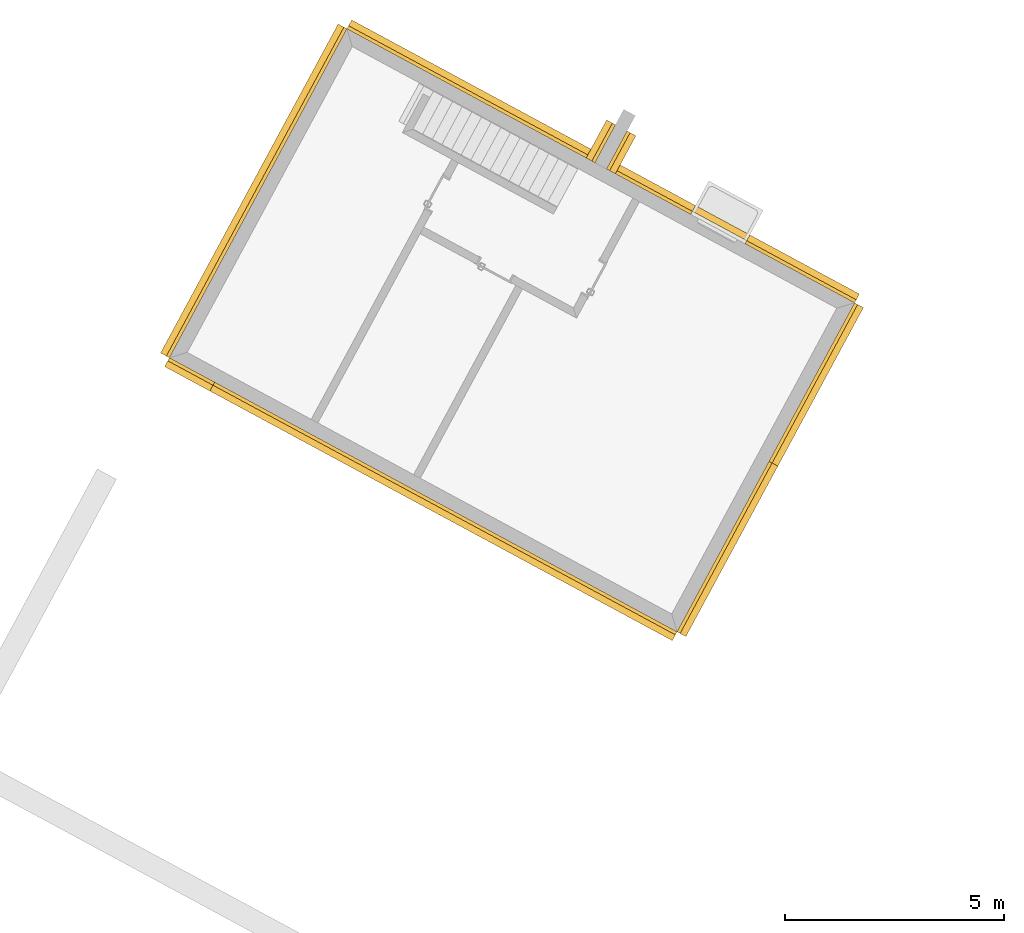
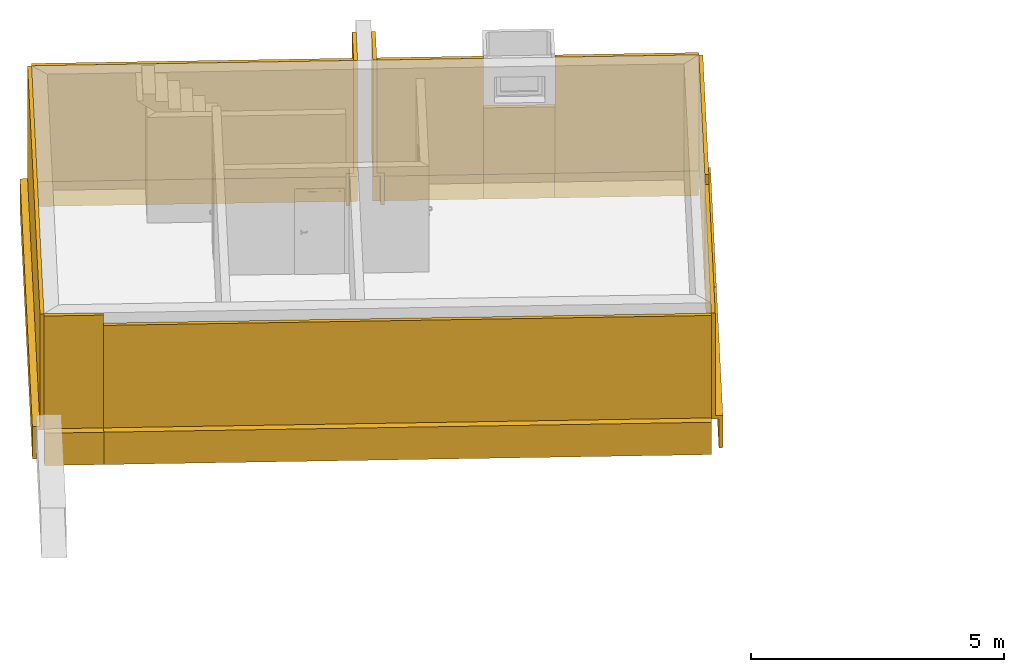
# One storey, part 7 of 8: 11 coverings.
"""IFC2X3 building model written with IfcOpenShell, lengths in metres."""

from ifc_helpers import new_model, entity, si_unit, converted_unit, derived_unit, money_unit, direction, frame, origin_with_axes, place, context, subcontext, project, spatial, polyline, outline, composite_profile, extrude, material, material_list, type_object, element, save


model = new_model("IFC2X3")

# Units and contexts
model_context = context("Model", 3, precision=1e-05, world=origin_with_axes(), true_north=direction((0.0, 1.0)))
body_context = subcontext(model_context, "Body", "Model", "MODEL_VIEW")
ifc_project = project(units=[si_unit("LENGTHUNIT", "METRE"), si_unit("AREAUNIT", "SQUARE_METRE"), si_unit("VOLUMEUNIT", "CUBIC_METRE"), converted_unit("PLANEANGLEUNIT", "DEGREE", entity("IfcPlaneAngleMeasure", 0.0174532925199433), si_unit("PLANEANGLEUNIT", "RADIAN"), dimensions=[0, 0, 0, 0, 0, 0, 0]), money_unit("EUR"), converted_unit("TIMEUNIT", "Year", entity("IfcTimeMeasure", 31556926.0), si_unit("TIMEUNIT", "SECOND"), dimensions=[0, 0, 1, 0, 0, 0, 0]), si_unit("MASSUNIT", "GRAM", prefix="KILO"), si_unit("THERMODYNAMICTEMPERATUREUNIT", "DEGREE_CELSIUS"), si_unit("LUMINOUSINTENSITYUNIT", "LUMEN"), si_unit("ENERGYUNIT", "JOULE", prefix="MEGA"), derived_unit("THERMALCONDUCTANCEUNIT", [(si_unit("POWERUNIT", "WATT"), 1), (si_unit("LENGTHUNIT", "METRE"), -1), (si_unit("THERMODYNAMICTEMPERATUREUNIT", "KELVIN"), -1)]), derived_unit("SPECIFICHEATCAPACITYUNIT", [(si_unit("ENERGYUNIT", "JOULE"), 1), (si_unit("MASSUNIT", "GRAM", prefix="KILO"), -1), (si_unit("THERMODYNAMICTEMPERATUREUNIT", "KELVIN"), -1)]), derived_unit("MASSDENSITYUNIT", [(si_unit("MASSUNIT", "GRAM", prefix="KILO"), 1), (si_unit("VOLUMEUNIT", "CUBIC_METRE"), -1)])], contexts=[model_context])

# Site, building, storey
site_placement = place(None, frame((-3.949935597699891, 1.740105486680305, 0.0), z_axis=(0.0, 0.0, 1.0), x_axis=(0.8799804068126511, -0.475009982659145, 0.0)))
site = spatial("IfcSite", under=ifc_project, at=site_placement, Name="Gelände", CompositionType="ELEMENT")
building_placement = place(site_placement, origin_with_axes())
building = spatial("IfcBuilding", under=site, at=building_placement, Name="Gebäude", CompositionType="ELEMENT")
storey_placement = place(building_placement, frame((0.0, 0.0, -2.98), z_axis=(0.0, 0.0, 1.0), x_axis=(1.0, 0.0, 0.0)))
storey = spatial("IfcBuildingStorey", under=building, at=storey_placement, Name="Kellergeschoss", CompositionType="ELEMENT", Elevation=-2.98)

# Coverings
ifc_material = material(Name="_SIWH - Dämmung, Perimeterdämmung")
ifc_material_list = material_list([ifc_material, ifc_material, ifc_material])
covering_type_1 = type_object("IfcCoveringType", Name="_SIWH - Außendämmung Wand KG 230 x 3500", PredefinedType="INSULATION")
covering_1_placement = place(storey_placement, frame((17.36747827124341, 19.2003203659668, 2.98), z_axis=(0.0, 0.0, 1.0), x_axis=(-0.9999999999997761, -6.693305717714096e-07, 0.0)))
element("IfcCovering", 1, at=covering_1_placement, inside=storey, type_object=covering_type_1, material=ifc_material_list, Name="Unterzug-015", PredefinedType="INSULATION", context=body_context, shape_type="SweptSolid", body=[
    extrude(composite_profile([outline(polyline([(-0.1500000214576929, -2.980000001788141), (-0.2300000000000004, -2.979999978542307), (-0.2300000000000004, -3.68), (-0.1500000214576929, -3.68), (-0.1500000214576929, -2.980000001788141)])), outline(polyline([(-0.08000001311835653, -0.1800000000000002), (-0.08000001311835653, -2.90000003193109), (1.604537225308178e-08, -2.8999999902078), (1.604537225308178e-08, -0.1800000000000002), (-0.08000001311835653, -0.1800000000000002)])), outline(polyline([(9.300086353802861e-09, -2.979999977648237), (9.300086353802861e-09, -2.9), (-0.08000001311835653, -2.90000003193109), (-0.2300000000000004, -2.899999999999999), (-0.2300000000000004, -2.979999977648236), (-0.1500000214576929, -2.980000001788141), (9.300086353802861e-09, -2.979999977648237)]))]), frame((0.0, 4.117274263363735, 0.0), z_axis=(0.0, -1.0, 0.0), x_axis=(1.0, 0.0, 0.0)), (0.0, 0.0, 1.0), 4.117274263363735),
])
covering_2_placement = place(storey_placement, frame((4.182481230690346, 19.2003203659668, 2.98), z_axis=(0.0, 0.0, 1.0), x_axis=(0.0, -1.0, 0.0)))
element("IfcCovering", 2, at=covering_2_placement, inside=storey, type_object=covering_type_1, material=ifc_material_list, Name="Unterzug-015", PredefinedType="INSULATION", context=body_context, shape_type="SweptSolid", body=[
    extrude(composite_profile([outline(polyline([(-0.1500000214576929, -2.980000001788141), (-0.2300000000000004, -2.979999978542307), (-0.2300000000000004, -3.68), (-0.1500000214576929, -3.68), (-0.1500000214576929, -2.980000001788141)])), outline(polyline([(-0.08000001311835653, -0.1800000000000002), (-0.08000001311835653, -2.90000003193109), (1.604537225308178e-08, -2.8999999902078), (1.604537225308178e-08, -0.1800000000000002), (-0.08000001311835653, -0.1800000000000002)])), outline(polyline([(9.300086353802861e-09, -2.979999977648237), (9.300086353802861e-09, -2.9), (-0.08000001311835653, -2.90000003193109), (-0.2300000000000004, -2.899999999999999), (-0.2300000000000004, -2.979999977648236), (-0.1500000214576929, -2.980000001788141), (9.300086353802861e-09, -2.979999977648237)]))]), frame((0.0, 6.442524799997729, 0.0), z_axis=(0.0, -1.0, 0.0), x_axis=(1.0, 0.0, 0.0)), (0.0, 0.0, 1.0), 6.442524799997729),
])
covering_3_placement = place(storey_placement, frame((4.182535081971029, 10.65780061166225, 2.98), z_axis=(0.0, 0.0, 1.0), x_axis=(0.9999999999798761, 6.344140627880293e-06, 0.0)))
element("IfcCovering", 3, at=covering_3_placement, inside=storey, type_object=covering_type_1, material=ifc_material_list, Name="Unterzug-017", PredefinedType="INSULATION", context=body_context, shape_type="SweptSolid", body=[
    extrude(composite_profile([outline(polyline([(-0.1500000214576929, -2.980000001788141), (-0.2300000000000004, -2.979999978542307), (-0.2300000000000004, -3.68), (-0.1500000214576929, -3.68), (-0.1500000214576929, -2.980000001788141)])), outline(polyline([(-0.08000001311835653, -0.1800000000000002), (-0.08000001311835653, -2.90000003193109), (1.604537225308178e-08, -2.8999999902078), (1.604537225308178e-08, -0.1800000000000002), (-0.08000001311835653, -0.1800000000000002)])), outline(polyline([(9.300086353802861e-09, -2.979999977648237), (9.300086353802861e-09, -2.9), (-0.08000001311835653, -2.90000003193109), (-0.2300000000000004, -2.899999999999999), (-0.2300000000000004, -2.979999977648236), (-0.1500000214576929, -2.980000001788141), (9.300086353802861e-09, -2.979999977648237)]))]), frame((0.0, 8.542519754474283, 0.0), z_axis=(0.0, -1.0, 0.0), x_axis=(1.0, 0.0, 0.0)), (0.0, 0.0, 1.0), 8.542519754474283),
])
for number, where, z_axis, x_axis, name in (
    (4, (10.62500603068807, 19.2003203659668, 2.98), (0.0, 0.0, 1.0), (1.0, 0.0, 0.0), "Unterzug-015"),
    (5, (10.92500603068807, 20.18528753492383, 2.98), (0.0, 0.0, 1.0), (-1.0, 0.0, 0.0), "Unterzug-017"),
):
    element("IfcCovering", number, at=place(storey_placement, frame(where, z_axis=z_axis, x_axis=x_axis)), inside=storey, type_object=covering_type_1, material=ifc_material_list, Name=name, PredefinedType="INSULATION", context=body_context, shape_type="SweptSolid", body=[
        extrude(composite_profile([outline(polyline([(-0.1500000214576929, -2.980000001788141), (-0.2300000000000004, -2.979999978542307), (-0.2300000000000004, -3.68), (-0.1500000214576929, -3.68), (-0.1500000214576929, -2.980000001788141)])), outline(polyline([(-0.08000001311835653, -0.1800000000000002), (-0.08000001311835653, -2.90000003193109), (1.604537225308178e-08, -2.8999999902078), (1.604537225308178e-08, -0.1800000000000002), (-0.08000001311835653, -0.1800000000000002)])), outline(polyline([(9.300086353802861e-09, -2.979999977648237), (9.300086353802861e-09, -2.9), (-0.08000001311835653, -2.90000003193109), (-0.2300000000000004, -2.899999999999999), (-0.2300000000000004, -2.979999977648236), (-0.1500000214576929, -2.980000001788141), (9.300086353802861e-09, -2.979999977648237)]))]), frame((0.0, 0.9849671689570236, 0.0), z_axis=(0.0, -1.0, 0.0), x_axis=(1.0, 0.0, 0.0)), (0.0, 0.0, 1.0), 0.9849671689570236),
    ])
covering_4_placement = place(storey_placement, frame((10.92500603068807, 19.2003203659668, 2.98), z_axis=(0.0, 0.0, 1.0), x_axis=(0.0, -1.0, 0.0)))
element("IfcCovering", 6, at=covering_4_placement, inside=storey, type_object=covering_type_1, material=ifc_material_list, Name="Unterzug-015", PredefinedType="INSULATION", context=body_context, shape_type="SweptSolid", body=[
    extrude(composite_profile([outline(polyline([(-0.1500000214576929, -2.980000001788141), (-0.2300000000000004, -2.979999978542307), (-0.2300000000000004, -3.68), (-0.1500000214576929, -3.68), (-0.1500000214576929, -2.980000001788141)])), outline(polyline([(-0.08000001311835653, -0.1800000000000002), (-0.08000001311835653, -2.90000003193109), (1.604537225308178e-08, -2.8999999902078), (1.604537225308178e-08, -0.1800000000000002), (-0.08000001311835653, -0.1800000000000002)])), outline(polyline([(9.300086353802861e-09, -2.979999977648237), (9.300086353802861e-09, -2.9), (-0.08000001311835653, -2.90000003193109), (-0.2300000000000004, -2.899999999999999), (-0.2300000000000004, -2.979999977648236), (-0.1500000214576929, -2.980000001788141), (9.300086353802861e-09, -2.979999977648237)]))]), frame((0.0, 2.187467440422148, 0.0), z_axis=(0.0, -1.0, 0.0), x_axis=(1.0, 0.0, 0.0)), (0.0, 0.0, 1.0), 2.187467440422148),
])
covering_5_placement = place(storey_placement, frame((14.52247696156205, 19.2003203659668, 2.98), z_axis=(0.0, 0.0, 1.0), x_axis=(0.0, -1.0, 0.0)))
element("IfcCovering", 7, at=covering_5_placement, inside=storey, type_object=covering_type_1, material=ifc_material_list, Name="Unterzug-015", PredefinedType="INSULATION", context=body_context, shape_type="SweptSolid", body=[
    extrude(composite_profile([outline(polyline([(-0.1500000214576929, -2.980000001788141), (-0.2300000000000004, -2.979999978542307), (-0.2300000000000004, -3.68), (-0.1500000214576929, -3.68), (-0.1500000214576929, -2.980000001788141)])), outline(polyline([(-0.08000001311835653, -0.1800000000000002), (-0.08000001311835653, -2.90000003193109), (1.604537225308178e-08, -2.8999999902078), (1.604537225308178e-08, -0.1800000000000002), (-0.08000001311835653, -0.1800000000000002)])), outline(polyline([(9.300086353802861e-09, -2.979999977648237), (9.300086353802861e-09, -2.9), (-0.08000001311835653, -2.90000003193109), (-0.2300000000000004, -2.899999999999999), (-0.2300000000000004, -2.979999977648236), (-0.1500000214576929, -2.980000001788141), (9.300086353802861e-09, -2.979999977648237)]))]), frame((0.0, 2.845001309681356, 0.0), z_axis=(0.0, -1.0, 0.0), x_axis=(1.0, 0.0, 0.0)), (0.0, 0.0, 1.0), 2.845001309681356),
])
covering_6_placement = place(storey_placement, frame((5.357481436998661, 10.65780061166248, 2.98), z_axis=(0.0, 0.0, 1.0), x_axis=(0.0, 1.0, 0.0)))
element("IfcCovering", 8, at=covering_6_placement, inside=storey, type_object=covering_type_1, material=ifc_material_list, Name="Unterzug-016", PredefinedType="INSULATION", context=body_context, shape_type="SweptSolid", body=[
    extrude(composite_profile([outline(polyline([(-0.1500000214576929, -2.980000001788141), (-0.2300000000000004, -2.979999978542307), (-0.2300000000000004, -3.68), (-0.1500000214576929, -3.68), (-0.1500000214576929, -2.980000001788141)])), outline(polyline([(-0.08000001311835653, -0.1800000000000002), (-0.08000001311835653, -2.90000003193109), (1.604537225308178e-08, -2.8999999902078), (1.604537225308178e-08, -0.1800000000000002), (-0.08000001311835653, -0.1800000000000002)])), outline(polyline([(9.300086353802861e-09, -2.979999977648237), (9.300086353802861e-09, -2.9), (-0.08000001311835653, -2.90000003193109), (-0.2300000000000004, -2.899999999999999), (-0.2300000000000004, -2.979999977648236), (-0.1500000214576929, -2.980000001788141), (9.300086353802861e-09, -2.979999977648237)]))]), frame((0.0, 1.174946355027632, 0.0), z_axis=(0.0, -1.0, 0.0), x_axis=(1.0, 0.0, 0.0)), (0.0, 0.0, 1.0), 1.174946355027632),
])
covering_type_2 = type_object("IfcCoveringType", Name="_SIWH - Außendämmung Wand KG 230 x 3250", PredefinedType="INSULATION")
covering_7_placement = place(storey_placement, frame((17.36748398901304, 10.65780061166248, 2.98), z_axis=(0.0, 0.0, 1.0), x_axis=(0.0, 1.0, 0.0)))
element("IfcCovering", 9, at=covering_7_placement, inside=storey, type_object=covering_type_2, material=ifc_material_list, Name="Unterzug-016", PredefinedType="INSULATION", context=body_context, shape_type="SweptSolid", body=[
    extrude(composite_profile([outline(polyline([(-0.1500000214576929, -2.980000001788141), (-0.2300000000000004, -2.979999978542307), (-0.2300000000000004, -3.68), (-0.1500000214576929, -3.68), (-0.1500000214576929, -2.980000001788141)])), outline(polyline([(-0.08000001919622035, -0.4300000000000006), (-0.08000001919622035, -2.900000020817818), (1.363019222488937e-08, -2.899999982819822), (1.363019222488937e-08, -0.4300000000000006), (-0.08000001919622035, -0.4300000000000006)])), outline(polyline([(9.300086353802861e-09, -2.979999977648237), (9.300086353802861e-09, -2.9), (-0.08000001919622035, -2.900000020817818), (-0.2300000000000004, -2.899999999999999), (-0.2300000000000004, -2.979999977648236), (-0.1500000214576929, -2.980000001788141), (9.300086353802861e-09, -2.979999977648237)]))]), frame((0.0, 12.01000255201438, 0.0), z_axis=(0.0, -1.0, 0.0), x_axis=(1.0, 0.0, 0.0)), (0.0, 0.0, 1.0), 12.01000255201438),
])
covering_8_placement = place(storey_placement, frame((17.36748102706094, 15.08304610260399, 2.98), z_axis=(0.0, 0.0, 1.0), x_axis=(-0.9999999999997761, -6.693305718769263e-07, 0.0)))
element("IfcCovering", 10, at=covering_8_placement, inside=storey, type_object=covering_type_2, material=ifc_material_list, Name="Unterzug-015", PredefinedType="INSULATION", context=body_context, shape_type="SweptSolid", body=[
    extrude(composite_profile([outline(polyline([(-0.1500000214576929, -2.980000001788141), (-0.2300000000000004, -2.979999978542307), (-0.2300000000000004, -3.68), (-0.1500000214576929, -3.68), (-0.1500000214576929, -2.980000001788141)])), outline(polyline([(-0.08000001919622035, -0.4300000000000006), (-0.08000001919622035, -2.900000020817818), (1.363019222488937e-08, -2.899999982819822), (1.363019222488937e-08, -0.4300000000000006), (-0.08000001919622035, -0.4300000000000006)])), outline(polyline([(9.300086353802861e-09, -2.979999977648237), (9.300086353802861e-09, -2.9), (-0.08000001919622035, -2.900000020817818), (-0.2300000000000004, -2.899999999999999), (-0.2300000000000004, -2.979999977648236), (-0.1500000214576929, -2.980000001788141), (9.300086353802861e-09, -2.979999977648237)]))]), frame((0.0, 4.425245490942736, 0.0), z_axis=(0.0, -1.0, 0.0), x_axis=(1.0, 0.0, 0.0)), (0.0, 0.0, 1.0), 4.425245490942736),
])
covering_type_3 = type_object("IfcCoveringType", Name="_SIWH - Außendämmung Wand KG 230 x 2305", PredefinedType="INSULATION")
covering_9_placement = place(storey_placement, frame((13.11247347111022, 19.2003203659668, 2.98), z_axis=(0.0, 0.0, 1.0), x_axis=(0.0, -1.0, 0.0)))
element("IfcCovering", 11, at=covering_9_placement, inside=storey, type_object=covering_type_3, material=ifc_material_list, Name="Unterzug-015", PredefinedType="INSULATION", context=body_context, shape_type="SweptSolid", body=[
    extrude(composite_profile([outline(polyline([(-0.1500000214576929, -2.980000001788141), (-0.2300000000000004, -2.979999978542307), (-0.2300000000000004, -3.68), (-0.1500000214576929, -3.68), (-0.1500000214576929, -2.980000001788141)])), outline(polyline([(-0.08000001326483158, -1.375), (-0.08000001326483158, -2.900000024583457), (1.15491067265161e-08, -2.900000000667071), (1.15491067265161e-08, -1.375), (-0.08000001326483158, -1.375)])), outline(polyline([(9.300086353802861e-09, -2.979999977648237), (9.300086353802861e-09, -2.9), (-0.08000001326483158, -2.900000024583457), (-0.2300000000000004, -2.899999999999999), (-0.2300000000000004, -2.979999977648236), (-0.1500000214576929, -2.980000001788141), (9.300086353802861e-09, -2.979999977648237)]))]), frame((0.0, 1.41000349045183, 0.0), z_axis=(0.0, -1.0, 0.0), x_axis=(1.0, 0.0, 0.0)), (0.0, 0.0, 1.0), 1.41000349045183),
])

save(model, "model.ifc")
